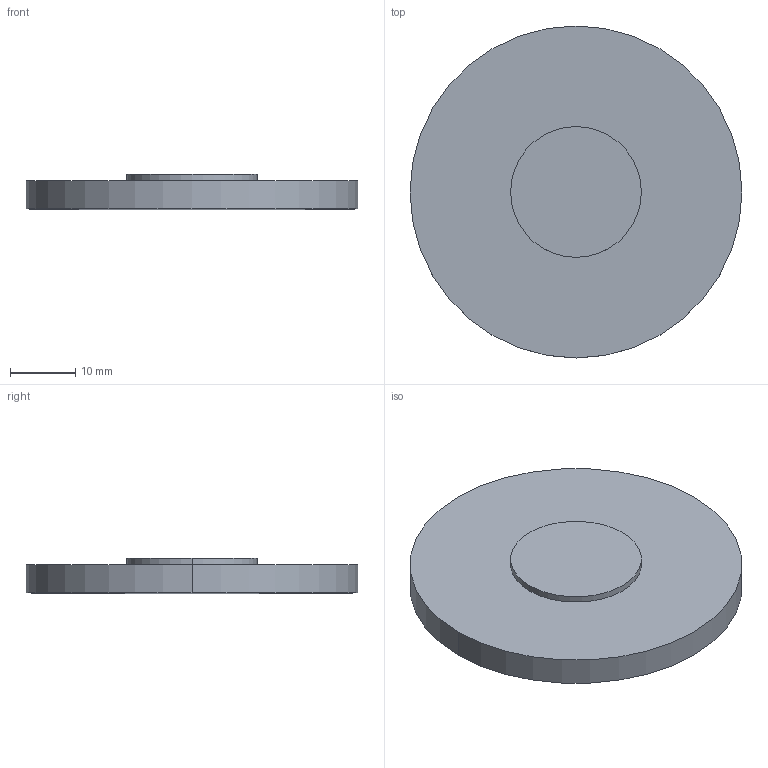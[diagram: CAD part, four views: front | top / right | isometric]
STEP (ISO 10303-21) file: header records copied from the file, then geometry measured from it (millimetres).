
FILE_DESCRIPTION(('STEP AP214'),'1');
FILE_NAME('LLG-51760.STEP','2020-03-09T17:41:43',(' '),(' '),'Spatial InterOp 3D',' ',' ');
FILE_SCHEMA(('AUTOMOTIVE_DESIGN { 1 0 10303 214 1 1 1 1 }'));
Length unit declared in the file: millimetre
Products named in the file (1): 1
Bounding box: 50.8 x 50.8 x 5.5 mm (x, y, z)
Volume: 9280.6 mm3; surface area: 5438.8 mm2
Topology: 2 solids, 2 shells, 9 faces, 16 edges, 9 vertices
Faces by surface type: cylinder 4, plane 3, sphere 2
Entity records: 229 total; most frequent: DIRECTION 46, CARTESIAN_POINT 34, ORIENTED_EDGE 28, AXIS2_PLACEMENT_3D 21, EDGE_CURVE 14, CIRCLE 10, ADVANCED_FACE 9, FACE_OUTER_BOUND 9
